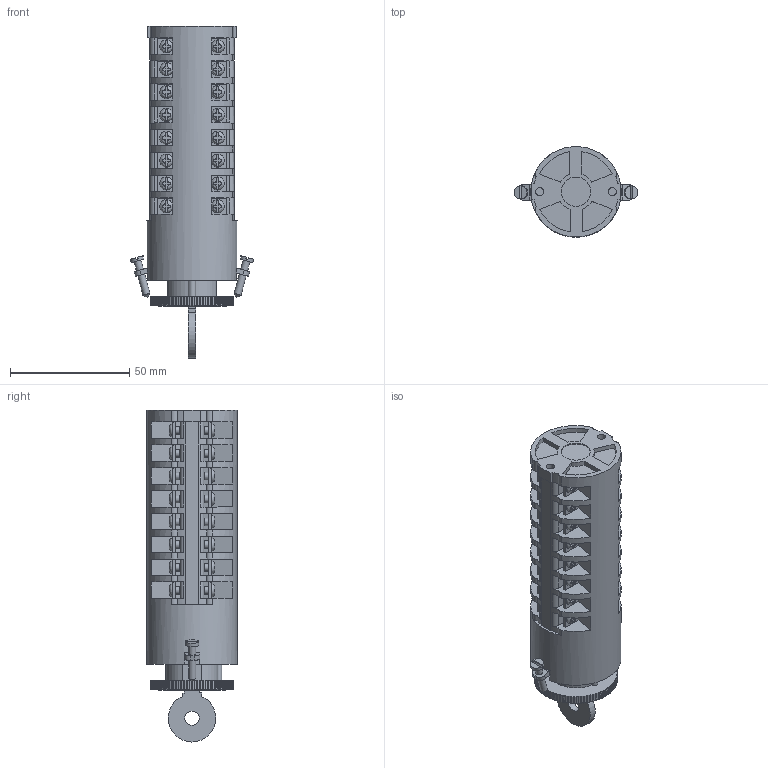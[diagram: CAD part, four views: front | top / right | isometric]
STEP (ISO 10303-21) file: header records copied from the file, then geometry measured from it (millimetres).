
FILE_DESCRIPTION(/* description */ (''),/* implementation_level */ '2;1');
FILE_NAME(/* name */ '4G10-U_wykonanie_S10_8_korpusow.stp',/* time_stamp */ '2021-07-21T08:27:15+02:00',/* author */ (''),/* organization */ (''),/* preprocessor_version */ 'ST-DEVELOPER v18.1',/* originating_system */ 'SIEMENS PLM Software NX 1965',/* authorisation */ '');
FILE_SCHEMA (('AUTOMOTIVE_DESIGN { 1 0 10303 214 3 1 1 1 }'));
Length unit declared in the file: millimetre
Products named in the file (1): 4G10-U_wykonanie_S10_8_korpusow_stp
Bounding box: 51.98 x 38 x 139.48 mm (x, y, z)
Volume: 107621.5 mm3; surface area: 31931.8 mm2
Topology: 1 solids, 3 shells, 1375 faces, 3893 edges, 2604 vertices
Faces by surface type: plane 1109, cylinder 228, bspline 32, cone 4, torus 2
Full cylindrical faces by diameter (mm): 3 x4, 3.2 x32, 3.4 x4, 5.5 x2, 5.6 x2, 6 x1, 12.3 x1, 15.8 x1, 16.1 x1, 38 x1
Entity records: 44516 total; most frequent: CARTESIAN_POINT 9718, ORIENTED_EDGE 7454, DIRECTION 6850, EDGE_CURVE 3727, VERTEX_POINT 2527, LINE 2476, VECTOR 2476, AXIS2_PLACEMENT_3D 2187
